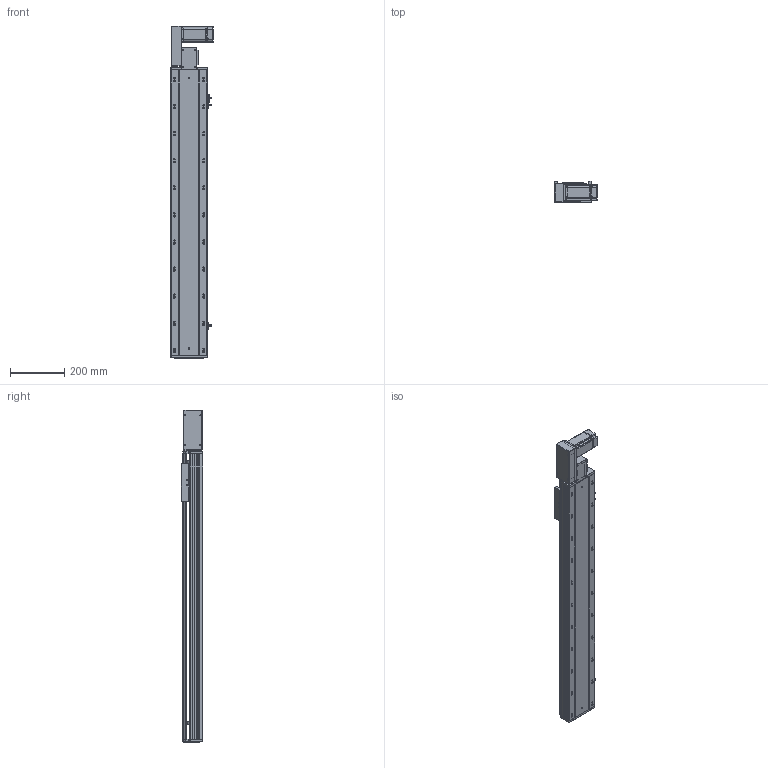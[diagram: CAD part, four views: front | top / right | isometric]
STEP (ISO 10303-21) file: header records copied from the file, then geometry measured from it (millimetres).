
FILE_DESCRIPTION (( 'STEP AP203' ), '1' );
FILE_NAME ('RY140-T-300-LK.SLDASM_800.step', '2021-03-01T06:35:17', ( '盈信电脑' ), ( '东莞市道滘镇水果街19号' ), 'SwSTEP 2.0', 'SolidWorks 2012', '' );
FILE_SCHEMA (( 'CONFIG_CONTROL_DESIGN' ));
Length unit declared in the file: millimetre
Products named in the file (18): RY140-T萇儂欶; 滅袉蝶18-10; RY140-T-300-LK.SLDASM_800; RY140-T翋肮謫裔啣; RY120-T蹟翐M4; 侂狟400W侜督萇儂; 15; RY120-T主同步轮轴承压盖; RY140-T翋肮祭謫盓傅釱; RY140-T萇儂假蚾啣; RY120-T肮祭湍揤踡輸2; RY120-T肮祭湍揤踡輸1; RY120外置感应片(140共用）; RY140綴裔啣; 覜茼ん672; RY140肮祭謫臏賑輸; RY140-T-300-DL倰第菁釱_800; RY140-T-300-DL倰第奻裔啣_800
Assembly tree (23 placements, depth 3):
  RY140-T-300-LK.SLDASM_800
    RY140-T-300-DL倰第菁釱_800
    RY140肮祭謫臏賑輸
    RY140-T-300-DL倰第奻裔啣_800
    RY140綴裔啣
    覜茼ん672  x3
    RY120外置感应片(140共用）
    RY120-T肮祭湍揤踡輸2
    RY120-T肮祭湍揤踡輸1
    RY140-T翋肮祭謫盓傅釱
    RY140-T萇儂假蚾啣
    侂狟400W侜督萇儂
      15
    RY120-T主同步轮轴承压盖
    RY120-T蹟翐M4  x4
    RY140-T萇儂欶
    滅袉蝶18-10  x2
    RY140-T翋肮謫裔啣
Bounding box: 157 x 78 x 1226.5 mm (x, y, z)
Volume: 3511571.7 mm3; surface area: 1329924.8 mm2
Topology: 22 solids, 22 shells, 2707 faces, 7469 edges, 4806 vertices
Faces by surface type: plane 1385, cylinder 1016, cone 206, bspline 100
Entity records: 86449 total; most frequent: CARTESIAN_POINT 21297, ORIENTED_EDGE 13450, DIRECTION 12685, EDGE_CURVE 6725, VERTEX_POINT 4405, LINE 4253, VECTOR 4253, AXIS2_PLACEMENT_3D 4216
